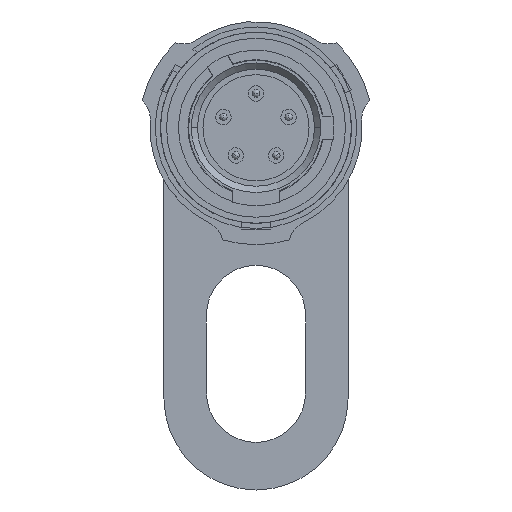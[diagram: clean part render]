
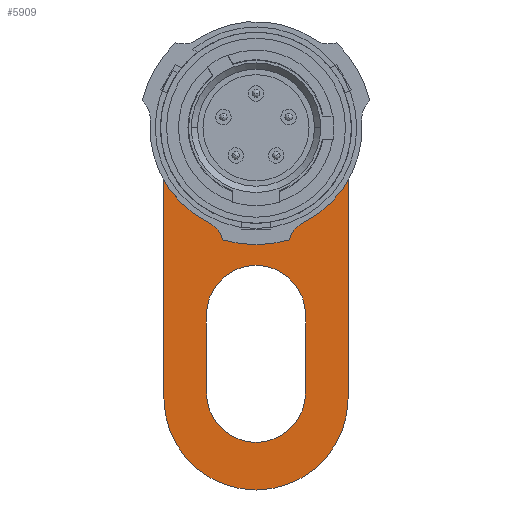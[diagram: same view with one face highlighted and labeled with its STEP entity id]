
A CAD part, left-side view. The second image highlights one B-rep face of the part: STEP entity #5909.
In plain terms, the highlighted planar face has unit normal (-1, 0, 0).
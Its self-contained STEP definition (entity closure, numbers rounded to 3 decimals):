
#5683=AXIS2_PLACEMENT_3D('Circle Axis2P3D',#5681,#5682,$) ;
#5837=AXIS2_PLACEMENT_3D('Plane Axis2P3D',#5834,#5835,#5836) ;
#5841=AXIS2_PLACEMENT_3D('Circle Axis2P3D',#5839,#5840,$) ;
#5859=AXIS2_PLACEMENT_3D('Circle Axis2P3D',#5857,#5858,$) ;
#5868=AXIS2_PLACEMENT_3D('Circle Axis2P3D',#5866,#5867,$) ;
#5877=AXIS2_PLACEMENT_3D('Circle Axis2P3D',#5875,#5876,$) ;
#5893=AXIS2_PLACEMENT_3D('Circle Axis2P3D',#5891,#5892,$) ;
#5678=CARTESIAN_POINT('Vertex',(0.,5.905,0.)) ;
#5681=CARTESIAN_POINT('Axis2P3D Location',(0.,0.,0.)) ;
#5685=CARTESIAN_POINT('Vertex',(0.,-5.905,0.)) ;
#5812=CARTESIAN_POINT('Vertex',(0.,5.905,-17.32)) ;
#5815=CARTESIAN_POINT('Line Origine',(0.,5.905,-8.66)) ;
#5834=CARTESIAN_POINT('Axis2P3D Location',(0.,0.,0.)) ;
#5839=CARTESIAN_POINT('Axis2P3D Location',(0.,0.,-17.32)) ;
#5843=CARTESIAN_POINT('Vertex',(0.,-5.905,-17.32)) ;
#5846=CARTESIAN_POINT('Line Origine',(0.,-5.905,-8.66)) ;
#5857=CARTESIAN_POINT('Axis2P3D Location',(0.,0.,0.)) ;
#5861=CARTESIAN_POINT('Vertex',(0.,4.5,0.)) ;
#5863=CARTESIAN_POINT('Vertex',(0.,-4.5,0.)) ;
#5866=CARTESIAN_POINT('Axis2P3D Location',(0.,0.,0.)) ;
#5875=CARTESIAN_POINT('Axis2P3D Location',(0.,0.,-12.)) ;
#5879=CARTESIAN_POINT('Vertex',(0.,3.175,-12.)) ;
#5881=CARTESIAN_POINT('Vertex',(0.,-3.175,-12.)) ;
#5884=CARTESIAN_POINT('Line Origine',(0.,-3.175,-14.5)) ;
#5888=CARTESIAN_POINT('Vertex',(0.,-3.175,-17.)) ;
#5891=CARTESIAN_POINT('Axis2P3D Location',(0.,0.,-17.)) ;
#5895=CARTESIAN_POINT('Vertex',(0.,3.175,-17.)) ;
#5898=CARTESIAN_POINT('Line Origine',(0.,3.175,-14.5)) ;
#5682=DIRECTION('Axis2P3D Direction',(1.,0.,0.)) ;
#5816=DIRECTION('Vector Direction',(0.,0.,-1.)) ;
#5835=DIRECTION('Axis2P3D Direction',(1.,0.,0.)) ;
#5836=DIRECTION('Axis2P3D XDirection',(0.,1.,0.)) ;
#5840=DIRECTION('Axis2P3D Direction',(1.,0.,0.)) ;
#5847=DIRECTION('Vector Direction',(0.,0.,1.)) ;
#5858=DIRECTION('Axis2P3D Direction',(1.,0.,0.)) ;
#5867=DIRECTION('Axis2P3D Direction',(1.,0.,0.)) ;
#5876=DIRECTION('Axis2P3D Direction',(1.,0.,0.)) ;
#5885=DIRECTION('Vector Direction',(0.,0.,1.)) ;
#5892=DIRECTION('Axis2P3D Direction',(1.,0.,0.)) ;
#5899=DIRECTION('Vector Direction',(0.,0.,-1.)) ;
#5817=VECTOR('Line Direction',#5816,1.) ;
#5848=VECTOR('Line Direction',#5847,1.) ;
#5886=VECTOR('Line Direction',#5885,1.) ;
#5900=VECTOR('Line Direction',#5899,1.) ;
#5852=ORIENTED_EDGE('',*,*,#5819,.F.) ;
#5853=ORIENTED_EDGE('',*,*,#5845,.F.) ;
#5854=ORIENTED_EDGE('',*,*,#5850,.F.) ;
#5855=ORIENTED_EDGE('',*,*,#5687,.F.) ;
#5872=ORIENTED_EDGE('',*,*,#5865,.F.) ;
#5873=ORIENTED_EDGE('',*,*,#5870,.F.) ;
#5904=ORIENTED_EDGE('',*,*,#5883,.T.) ;
#5905=ORIENTED_EDGE('',*,*,#5890,.T.) ;
#5906=ORIENTED_EDGE('',*,*,#5897,.T.) ;
#5907=ORIENTED_EDGE('',*,*,#5902,.T.) ;
#5874=FACE_BOUND('',#5871,.T.) ;
#5908=FACE_BOUND('',#5903,.T.) ;
#5909=ADVANCED_FACE('PartBody',(#5856,#5874,#5908),#5838,.F.) ;
#5684=CIRCLE('generated circle',#5683,5.905) ;
#5842=CIRCLE('generated circle',#5841,5.905) ;
#5860=CIRCLE('generated circle',#5859,4.5) ;
#5869=CIRCLE('generated circle',#5868,4.5) ;
#5878=CIRCLE('generated circle',#5877,3.175) ;
#5894=CIRCLE('generated circle',#5893,3.175) ;
#5687=EDGE_CURVE('',#5679,#5686,#5684,.T.) ;
#5819=EDGE_CURVE('',#5813,#5679,#5818,.F.) ;
#5845=EDGE_CURVE('',#5844,#5813,#5842,.T.) ;
#5850=EDGE_CURVE('',#5686,#5844,#5849,.F.) ;
#5865=EDGE_CURVE('',#5862,#5864,#5860,.F.) ;
#5870=EDGE_CURVE('',#5864,#5862,#5869,.F.) ;
#5883=EDGE_CURVE('',#5880,#5882,#5878,.T.) ;
#5890=EDGE_CURVE('',#5882,#5889,#5887,.F.) ;
#5897=EDGE_CURVE('',#5889,#5896,#5894,.T.) ;
#5902=EDGE_CURVE('',#5896,#5880,#5901,.F.) ;
#5851=EDGE_LOOP('',(#5852,#5853,#5854,#5855)) ;
#5871=EDGE_LOOP('',(#5872,#5873)) ;
#5903=EDGE_LOOP('',(#5904,#5905,#5906,#5907)) ;
#5856=FACE_OUTER_BOUND('',#5851,.T.) ;
#5818=LINE('Line',#5815,#5817) ;
#5849=LINE('Line',#5846,#5848) ;
#5887=LINE('Line',#5884,#5886) ;
#5901=LINE('Line',#5898,#5900) ;
#5838=PLANE('Plane',#5837) ;
#5679=VERTEX_POINT('',#5678) ;
#5686=VERTEX_POINT('',#5685) ;
#5813=VERTEX_POINT('',#5812) ;
#5844=VERTEX_POINT('',#5843) ;
#5862=VERTEX_POINT('',#5861) ;
#5864=VERTEX_POINT('',#5863) ;
#5880=VERTEX_POINT('',#5879) ;
#5882=VERTEX_POINT('',#5881) ;
#5889=VERTEX_POINT('',#5888) ;
#5896=VERTEX_POINT('',#5895) ;
